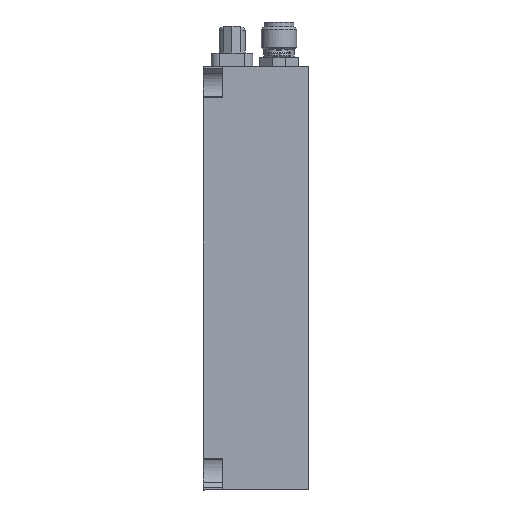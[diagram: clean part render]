
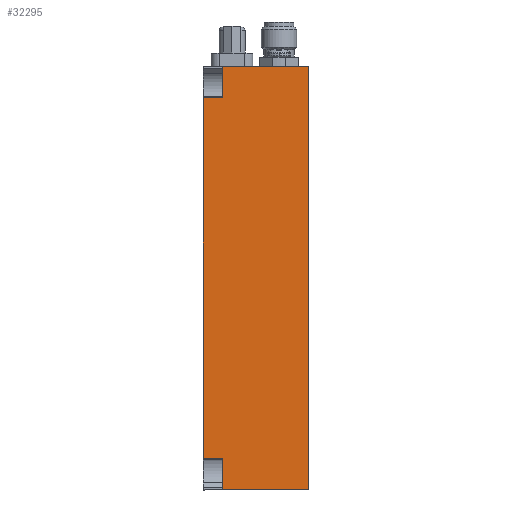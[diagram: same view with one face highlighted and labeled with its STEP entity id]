
A CAD part, left-side view. The second image highlights one B-rep face of the part: STEP entity #32295.
In plain terms, the highlighted planar face has unit normal (-1, 0, 0).
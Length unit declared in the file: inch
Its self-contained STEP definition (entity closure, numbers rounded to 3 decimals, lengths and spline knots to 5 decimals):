
#245 = DIRECTION ( 'NONE',  ( 0., 1., 0. ) ) ;
#398 = FACE_OUTER_BOUND ( 'NONE', #22652, .T. ) ;
#541 = CARTESIAN_POINT ( 'NONE',  ( -0.21071, 2.01151, 3.48176 ) ) ;
#577 = CARTESIAN_POINT ( 'NONE',  ( -0.21071, 2.01151, 3.48176 ) ) ;
#907 = ORIENTED_EDGE ( 'NONE', *, *, #4797, .F. ) ;
#1207 = LINE ( 'NONE', #13956, #19798 ) ;
#1673 = CARTESIAN_POINT ( 'NONE',  ( -0.21071, 2.15151, 3.48176 ) ) ;
#2299 = VERTEX_POINT ( 'NONE', #541 ) ;
#3297 = EDGE_CURVE ( 'NONE', #2299, #12145, #1207, .T. ) ;
#4185 = CARTESIAN_POINT ( 'NONE',  ( -0.21071, 2.01151, 0.92779 ) ) ;
#4797 = EDGE_CURVE ( 'NONE', #6247, #28949, #31376, .T. ) ;
#6247 = VERTEX_POINT ( 'NONE', #25155 ) ;
#6330 = CARTESIAN_POINT ( 'NONE',  ( -0.21071, 2.01151, 0.70477 ) ) ;
#7458 = EDGE_CURVE ( 'NONE', #12145, #15343, #29414, .T. ) ;
#7658 = CARTESIAN_POINT ( 'NONE',  ( -0.21071, 1.40151, 0.70477 ) ) ;
#8100 = CARTESIAN_POINT ( 'NONE',  ( -0.21071, 2.15151, 0.70477 ) ) ;
#9516 = VECTOR ( 'NONE', #13718, 39.37008 ) ;
#10840 = LINE ( 'NONE', #8100, #32179 ) ;
#10903 = PLANE ( 'NONE',  #28472 ) ;
#11087 = ORIENTED_EDGE ( 'NONE', *, *, #13239, .F. ) ;
#11739 = ORIENTED_EDGE ( 'NONE', *, *, #25065, .T. ) ;
#11907 = CARTESIAN_POINT ( 'NONE',  ( -0.21071, 2.01151, 0.70477 ) ) ;
#12145 = VERTEX_POINT ( 'NONE', #29357 ) ;
#12786 = EDGE_CURVE ( 'NONE', #19967, #6247, #18908, .T. ) ;
#12920 = DIRECTION ( 'NONE',  ( 0., 0., 1. ) ) ;
#13012 = EDGE_CURVE ( 'NONE', #29545, #23075, #10840, .T. ) ;
#13239 = EDGE_CURVE ( 'NONE', #29545, #19967, #24497, .T. ) ;
#13336 = LINE ( 'NONE', #26626, #13553 ) ;
#13380 = CARTESIAN_POINT ( 'NONE',  ( -0.21071, 2.15151, 3.70477 ) ) ;
#13553 = VECTOR ( 'NONE', #13675, 39.37008 ) ;
#13675 = DIRECTION ( 'NONE',  ( 0., 0., 1. ) ) ;
#13718 = DIRECTION ( 'NONE',  ( 0., -1., 0. ) ) ;
#13956 = CARTESIAN_POINT ( 'NONE',  ( -0.21071, 2.01151, 3.70477 ) ) ;
#15343 = VERTEX_POINT ( 'NONE', #18851 ) ;
#18327 = DIRECTION ( 'NONE',  ( 0., 0., -1. ) ) ;
#18368 = VECTOR ( 'NONE', #29091, 39.37008 ) ;
#18655 = CARTESIAN_POINT ( 'NONE',  ( -0.21071, 2.15151, 0.70477 ) ) ;
#18851 = CARTESIAN_POINT ( 'NONE',  ( -0.21071, 1.40151, 3.70477 ) ) ;
#18908 = LINE ( 'NONE', #26857, #18368 ) ;
#19798 = VECTOR ( 'NONE', #21720, 39.37008 ) ;
#19967 = VERTEX_POINT ( 'NONE', #4185 ) ;
#21168 = ORIENTED_EDGE ( 'NONE', *, *, #12786, .F. ) ;
#21371 = DIRECTION ( 'NONE',  ( 0., -1., 0. ) ) ;
#21720 = DIRECTION ( 'NONE',  ( 0., 0., 1. ) ) ;
#22652 = EDGE_LOOP ( 'NONE', ( #907, #21168, #11087, #25455, #11739, #31750, #25901, #30477 ) ) ;
#23075 = VERTEX_POINT ( 'NONE', #7658 ) ;
#24497 = LINE ( 'NONE', #11907, #27790 ) ;
#25065 = EDGE_CURVE ( 'NONE', #23075, #15343, #13336, .T. ) ;
#25107 = EDGE_CURVE ( 'NONE', #2299, #28949, #26792, .T. ) ;
#25155 = CARTESIAN_POINT ( 'NONE',  ( -0.21071, 2.15151, 0.92779 ) ) ;
#25455 = ORIENTED_EDGE ( 'NONE', *, *, #13012, .T. ) ;
#25901 = ORIENTED_EDGE ( 'NONE', *, *, #3297, .F. ) ;
#26036 = CARTESIAN_POINT ( 'NONE',  ( -0.21071, 2.15151, 0.70477 ) ) ;
#26626 = CARTESIAN_POINT ( 'NONE',  ( -0.21071, 1.40151, 0.70477 ) ) ;
#26792 = LINE ( 'NONE', #577, #32874 ) ;
#26857 = CARTESIAN_POINT ( 'NONE',  ( -0.21071, 2.01151, 0.92779 ) ) ;
#27790 = VECTOR ( 'NONE', #32966, 39.37008 ) ;
#28472 = AXIS2_PLACEMENT_3D ( 'NONE', #18655, #31954, #18327 ) ;
#28655 = VECTOR ( 'NONE', #12920, 39.37008 ) ;
#28949 = VERTEX_POINT ( 'NONE', #1673 ) ;
#29091 = DIRECTION ( 'NONE',  ( 0., 1., 0. ) ) ;
#29357 = CARTESIAN_POINT ( 'NONE',  ( -0.21071, 2.01151, 3.70477 ) ) ;
#29414 = LINE ( 'NONE', #13380, #9516 ) ;
#29545 = VERTEX_POINT ( 'NONE', #6330 ) ;
#30477 = ORIENTED_EDGE ( 'NONE', *, *, #25107, .T. ) ;
#31376 = LINE ( 'NONE', #26036, #28655 ) ;
#31750 = ORIENTED_EDGE ( 'NONE', *, *, #7458, .F. ) ;
#31954 = DIRECTION ( 'NONE',  ( 1., 0., 0. ) ) ;
#32179 = VECTOR ( 'NONE', #21371, 39.37008 ) ;
#32295 = ADVANCED_FACE ( 'NONE', ( #398 ), #10903, .F. ) ;
#32874 = VECTOR ( 'NONE', #245, 39.37008 ) ;
#32966 = DIRECTION ( 'NONE',  ( 0., 0., 1. ) ) ;
